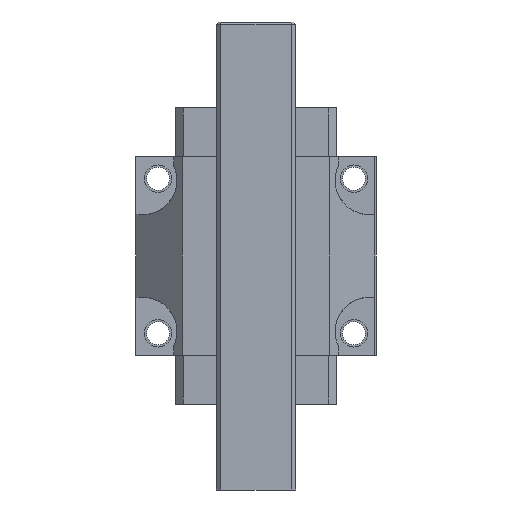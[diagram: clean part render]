
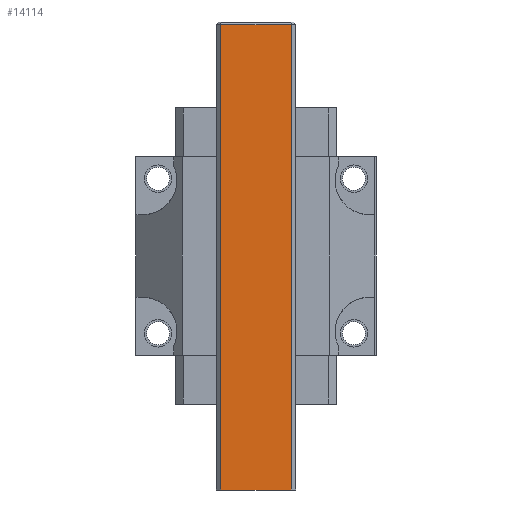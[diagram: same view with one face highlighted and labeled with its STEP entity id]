
A CAD part, front view. The second image highlights one B-rep face of the part: STEP entity #14114.
In plain terms, the highlighted planar face has unit normal (0, -1, 0).
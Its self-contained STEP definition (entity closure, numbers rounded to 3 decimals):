
#13075=DIRECTION('',(1.,0.,0.));
#13076=VECTOR('',#13075,20.6);
#13077=CARTESIAN_POINT('',(-10.3,-14.6,-68.1));
#13078=LINE('',#13077,#13076);
#13348=DIRECTION('',(1.,0.,0.));
#13349=VECTOR('',#13348,20.6);
#13350=CARTESIAN_POINT('',(-10.3,-14.6,67.234));
#13351=LINE('',#13350,#13349);
#13352=DIRECTION('',(0.,0.,1.));
#13353=VECTOR('',#13352,135.334);
#13354=CARTESIAN_POINT('',(-10.3,-14.6,-68.1));
#13355=LINE('',#13354,#13353);
#13360=DIRECTION('',(0.,0.,1.));
#13361=VECTOR('',#13360,135.334);
#13362=CARTESIAN_POINT('',(10.3,-14.6,-68.1));
#13363=LINE('',#13362,#13361);
#13546=CARTESIAN_POINT('',(-10.3,-14.6,-68.1));
#13547=VERTEX_POINT('',#13546);
#13548=CARTESIAN_POINT('',(10.3,-14.6,-68.1));
#13549=VERTEX_POINT('',#13548);
#13610=CARTESIAN_POINT('',(10.3,-14.6,67.234));
#13611=VERTEX_POINT('',#13610);
#13614=CARTESIAN_POINT('',(-10.3,-14.6,67.234));
#13615=VERTEX_POINT('',#13614);
#14102=CARTESIAN_POINT('',(-10.3,-14.6,-68.1));
#14103=DIRECTION('',(0.,-1.,0.));
#14104=DIRECTION('',(1.,0.,0.));
#14105=AXIS2_PLACEMENT_3D('',#14102,#14103,#14104);
#14106=PLANE('',#14105);
#14107=ORIENTED_EDGE('',*,*,#14093,.T.);
#14109=ORIENTED_EDGE('',*,*,#14108,.F.);
#14110=ORIENTED_EDGE('',*,*,#13695,.F.);
#14111=ORIENTED_EDGE('',*,*,#14068,.T.);
#14112=EDGE_LOOP('',(#14107,#14109,#14110,#14111));
#14113=FACE_OUTER_BOUND('',#14112,.F.);
#13695=EDGE_CURVE('',#13547,#13549,#13078,.T.);
#14068=EDGE_CURVE('',#13547,#13615,#13355,.T.);
#14093=EDGE_CURVE('',#13615,#13611,#13351,.T.);
#14108=EDGE_CURVE('',#13549,#13611,#13363,.T.);
#14114=ADVANCED_FACE('',(#14113),#14106,.T.);
